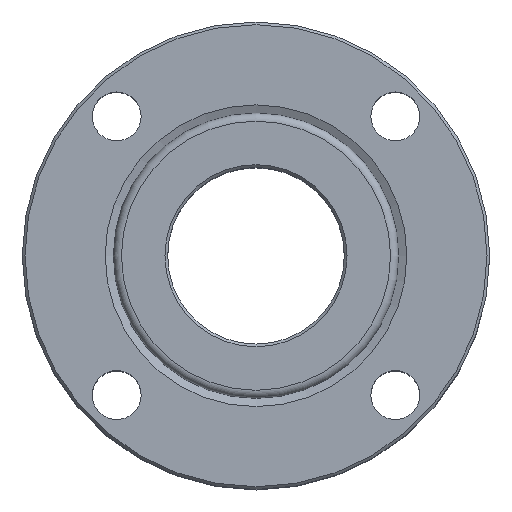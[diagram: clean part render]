
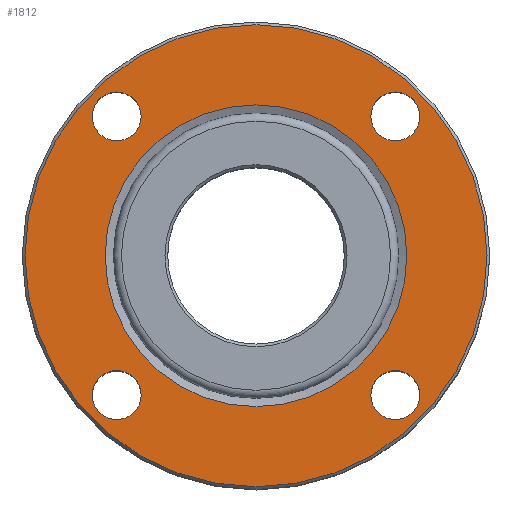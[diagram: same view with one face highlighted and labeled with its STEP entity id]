
A CAD part, top view. The second image highlights one B-rep face of the part: STEP entity #1812.
In plain terms, the highlighted planar face has unit normal (0, 0, 1).
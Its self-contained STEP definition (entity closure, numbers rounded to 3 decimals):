
#84=FACE_BOUND('',#442,.T.);
#85=FACE_BOUND('',#443,.T.);
#86=FACE_BOUND('',#444,.T.);
#87=FACE_BOUND('',#445,.T.);
#88=FACE_BOUND('',#446,.T.);
#97=PLANE('',#1958);
#327=FACE_OUTER_BOUND('',#441,.T.);
#441=EDGE_LOOP('',(#1211));
#442=EDGE_LOOP('',(#1212));
#443=EDGE_LOOP('',(#1213));
#444=EDGE_LOOP('',(#1214));
#445=EDGE_LOOP('',(#1215));
#446=EDGE_LOOP('',(#1216));
#620=CIRCLE('',#1957,85.);
#621=CIRCLE('',#1959,9.);
#622=CIRCLE('',#1960,9.);
#623=CIRCLE('',#1961,9.);
#624=CIRCLE('',#1962,9.);
#625=CIRCLE('',#1963,55.5);
#753=VERTEX_POINT('',#2765);
#754=VERTEX_POINT('',#2769);
#755=VERTEX_POINT('',#2771);
#756=VERTEX_POINT('',#2773);
#757=VERTEX_POINT('',#2775);
#758=VERTEX_POINT('',#2777);
#933=EDGE_CURVE('',#753,#753,#620,.T.);
#934=EDGE_CURVE('',#754,#754,#621,.T.);
#935=EDGE_CURVE('',#755,#755,#622,.T.);
#936=EDGE_CURVE('',#756,#756,#623,.T.);
#937=EDGE_CURVE('',#757,#757,#624,.T.);
#938=EDGE_CURVE('',#758,#758,#625,.T.);
#1211=ORIENTED_EDGE('',*,*,#933,.F.);
#1212=ORIENTED_EDGE('',*,*,#934,.F.);
#1213=ORIENTED_EDGE('',*,*,#935,.F.);
#1214=ORIENTED_EDGE('',*,*,#936,.F.);
#1215=ORIENTED_EDGE('',*,*,#937,.F.);
#1216=ORIENTED_EDGE('',*,*,#938,.T.);
#1812=ADVANCED_FACE('',(#327,#84,#85,#86,#87,#88),#97,.F.);
#1957=AXIS2_PLACEMENT_3D('',#2767,#2196,#2197);
#1958=AXIS2_PLACEMENT_3D('',#2768,#2198,#2199);
#1959=AXIS2_PLACEMENT_3D('',#2770,#2200,#2201);
#1960=AXIS2_PLACEMENT_3D('',#2772,#2202,#2203);
#1961=AXIS2_PLACEMENT_3D('',#2774,#2204,#2205);
#1962=AXIS2_PLACEMENT_3D('',#2776,#2206,#2207);
#1963=AXIS2_PLACEMENT_3D('',#2778,#2208,#2209);
#2196=DIRECTION('center_axis',(0.,0.,-1.));
#2197=DIRECTION('ref_axis',(-1.,0.,0.));
#2198=DIRECTION('center_axis',(0.,0.,-1.));
#2199=DIRECTION('ref_axis',(-1.,0.,0.));
#2200=DIRECTION('center_axis',(0.,0.,1.));
#2201=DIRECTION('ref_axis',(1.,0.,0.));
#2202=DIRECTION('center_axis',(0.,0.,1.));
#2203=DIRECTION('ref_axis',(1.,0.,0.));
#2204=DIRECTION('center_axis',(0.,0.,1.));
#2205=DIRECTION('ref_axis',(1.,0.,0.));
#2206=DIRECTION('center_axis',(0.,0.,1.));
#2207=DIRECTION('ref_axis',(1.,0.,0.));
#2208=DIRECTION('center_axis',(0.,0.,-1.));
#2209=DIRECTION('ref_axis',(0.,1.,0.));
#2765=CARTESIAN_POINT('',(85.,0.,53.5));
#2767=CARTESIAN_POINT('Origin',(0.,0.,53.5));
#2768=CARTESIAN_POINT('Origin',(0.,0.,53.5));
#2769=CARTESIAN_POINT('',(-60.265,51.265,53.5));
#2770=CARTESIAN_POINT('Origin',(-51.265,51.265,53.5));
#2771=CARTESIAN_POINT('',(-60.265,-51.265,53.5));
#2772=CARTESIAN_POINT('Origin',(-51.265,-51.265,53.5));
#2773=CARTESIAN_POINT('',(42.265,-51.265,53.5));
#2774=CARTESIAN_POINT('Origin',(51.265,-51.265,53.5));
#2775=CARTESIAN_POINT('',(42.265,51.265,53.5));
#2776=CARTESIAN_POINT('Origin',(51.265,51.265,53.5));
#2777=CARTESIAN_POINT('',(0.,-55.5,53.5));
#2778=CARTESIAN_POINT('Origin',(0.,0.,53.5));
